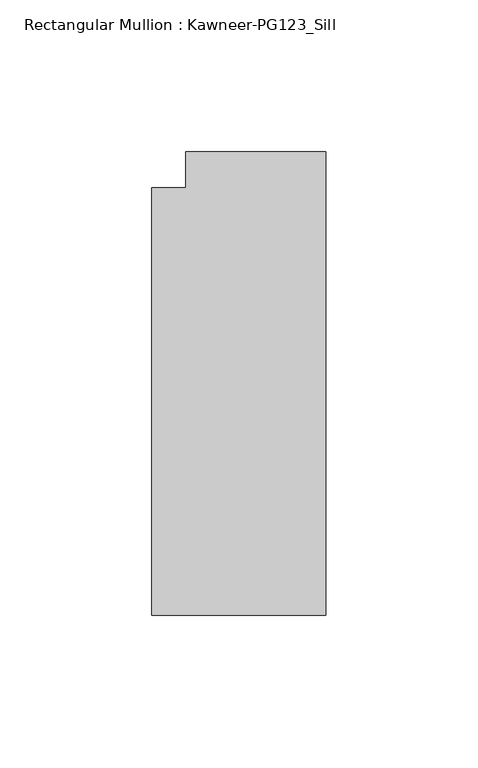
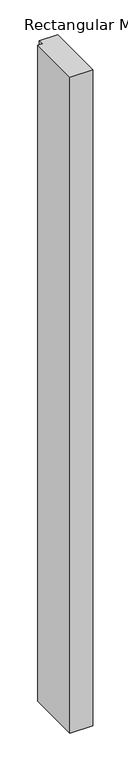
"""IFC4 building model written with IfcOpenShell, lengths in millimetres: member geometry, Rectangular Mullion : Kawneer-PG123_Sill."""

from ifc_helpers import new_model, si_unit, frame, origin, place, context, project, spatial, polyline, outline, extrude, source, transform, mapped, element, save


def rectangular_mullion_kawneer_pg123_sill_4414b554(model_context):
    return source(origin(), model_context, "Body", "SweptSolid", [
        extrude(outline(polyline([(0.0, 76.2), (0.0, -76.2), (-57.15, -76.2), (-57.15, 64.4779044), (-46.0319821, 64.4779044), (-46.0319821, 76.2), (0.0, 76.2)])), frame((0.0, 0.0, -1744.275), z_axis=(0.0, 0.0, 1.0), x_axis=(1.0, 0.0, 0.0)), (0.0, 0.0, 1.0), 1744.275),
    ])


if __name__ == "__main__":
    model = new_model("IFC4")
    model_context = context("Model", 3, world=origin())
    ifc_project = project(units=[si_unit("LENGTHUNIT", "METRE", prefix="MILLI")], contexts=[model_context])
    site = spatial("IfcSite", under=ifc_project)
    building = spatial("IfcBuilding", under=site)
    placement = place(None, origin())
    rectangular_mullion_kawneer_pg123_sill_shape = rectangular_mullion_kawneer_pg123_sill_4414b554(model_context)
    element("IfcMember", 1, ObjectType="Rectangular Mullion : Kawneer-PG123_Sill", at=placement, inside=building, context=model_context, shape_type="MappedRepresentation", body=[
        mapped(rectangular_mullion_kawneer_pg123_sill_shape, transform((0.0, 0.0, 0.0), x_axis=(1.0, 0.0, 0.0), y_axis=(0.0, 1.0, 0.0), z_axis=(0.0, 0.0, 1.0))),
    ])
    save(model, "model.ifc")
